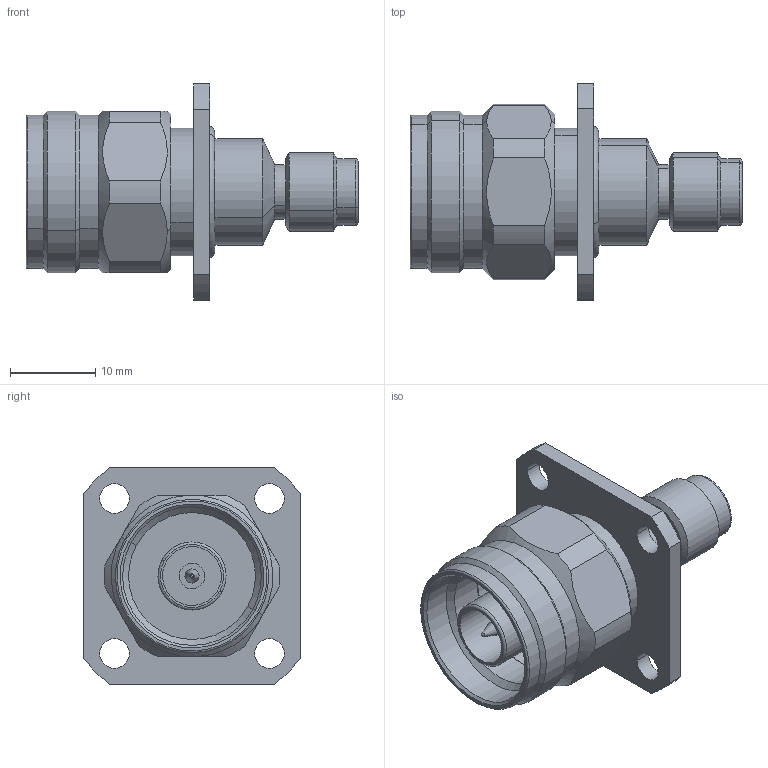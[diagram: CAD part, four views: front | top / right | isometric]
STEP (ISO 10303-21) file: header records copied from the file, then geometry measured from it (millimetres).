
FILE_DESCRIPTION(('CATIA V5 STEP Exchange'),'2;1');
FILE_NAME('D:\Work SZ\CMP 图纸\Precision Adapter\P-N-SMA\P-NM-SMAM-315\P-NM-SMAM-315.stp','2021-07-23T02:08:07+00:00',('none'),('none'),'CATIA Version 5 Release 20 GA (IN-10)','CATIA V5 STEP AP203','none');
FILE_SCHEMA(('CONFIG_CONTROL_DESIGN'));
Length unit declared in the file: millimetre
Products named in the file (1): P-NM-SMAM-315
Bounding box: 39 x 25.4 x 25.4 mm (x, y, z)
Volume: 5657.6 mm3; surface area: 4996.9 mm2
Topology: 2 solids, 2 shells, 130 faces, 288 edges, 171 vertices
Faces by surface type: cylinder 60, cone 30, plane 24, torus 14, revolution 2
Entity records: 3256 total; most frequent: CARTESIAN_POINT 626, ORIENTED_EDGE 572, DIRECTION 414, EDGE_CURVE 286, AXIS2_PLACEMENT_3D 233, VERTEX_POINT 171, CIRCLE 160, EDGE_LOOP 151
